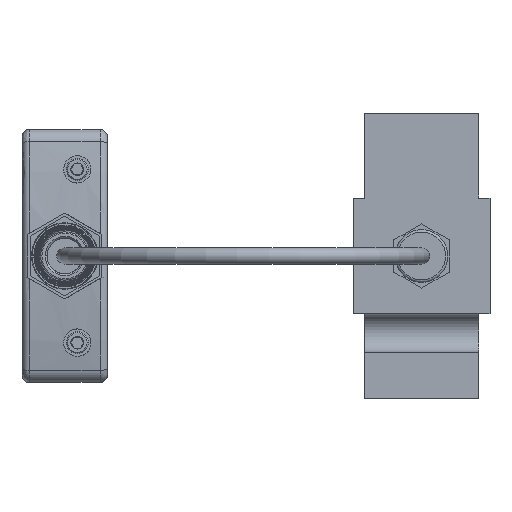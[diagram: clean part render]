
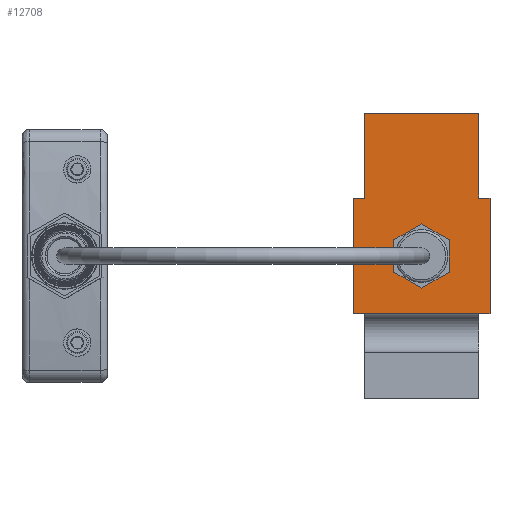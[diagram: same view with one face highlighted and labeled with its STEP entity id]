
A CAD part, left-side view. The second image highlights one B-rep face of the part: STEP entity #12708.
In plain terms, the highlighted planar face has unit normal (-1, 0, 0).
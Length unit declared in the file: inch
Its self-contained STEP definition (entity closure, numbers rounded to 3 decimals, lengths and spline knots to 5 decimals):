
#12587=CARTESIAN_POINT('',(38.483,-16.87213,6.919));
#12588=DIRECTION('',(1.0,0.0,0.0));
#12589=DIRECTION('',(0.0,0.0,-1.0));
#12590=AXIS2_PLACEMENT_3D('',#12587,#12588,#12589);
#12591=PLANE('',#12590);
#12592=CARTESIAN_POINT('',(38.483,-17.35213,8.119));
#12593=VERTEX_POINT('',#12592);
#12594=CARTESIAN_POINT('',(38.483,-17.35213,7.4065));
#12595=VERTEX_POINT('',#12594);
#12596=CARTESIAN_POINT('',(38.483,-17.35213,8.119));
#12597=DIRECTION('',(0.0,0.0,-1.0));
#12598=VECTOR('',#12597,0.7125);
#12599=LINE('',#12596,#12598);
#12600=EDGE_CURVE('',#12593,#12595,#12599,.T.);
#12601=ORIENTED_EDGE('',*,*,#12600,.F.);
#12602=CARTESIAN_POINT('',(38.483,-16.39213,8.119));
#12603=VERTEX_POINT('',#12602);
#12604=CARTESIAN_POINT('',(38.483,-16.39213,8.119));
#12605=DIRECTION('',(0.0,-1.0,0.0));
#12606=VECTOR('',#12605,0.96);
#12607=LINE('',#12604,#12606);
#12608=EDGE_CURVE('',#12603,#12593,#12607,.T.);
#12609=ORIENTED_EDGE('',*,*,#12608,.F.);
#12610=CARTESIAN_POINT('',(38.483,-16.39213,7.4065));
#12611=VERTEX_POINT('',#12610);
#12612=CARTESIAN_POINT('',(38.483,-16.39213,8.119));
#12613=DIRECTION('',(0.0,0.0,-1.0));
#12614=VECTOR('',#12613,0.7125);
#12615=LINE('',#12612,#12614);
#12616=EDGE_CURVE('',#12603,#12611,#12615,.T.);
#12617=ORIENTED_EDGE('',*,*,#12616,.T.);
#12618=CARTESIAN_POINT('',(38.483,-16.29713,7.4065));
#12619=VERTEX_POINT('',#12618);
#12620=CARTESIAN_POINT('',(38.483,-16.29713,7.4065));
#12621=DIRECTION('',(0.0,-1.0,0.0));
#12622=VECTOR('',#12621,0.095);
#12623=LINE('',#12620,#12622);
#12624=EDGE_CURVE('',#12619,#12611,#12623,.T.);
#12625=ORIENTED_EDGE('',*,*,#12624,.F.);
#12626=CARTESIAN_POINT('',(38.483,-16.29713,6.4315));
#12627=VERTEX_POINT('',#12626);
#12628=CARTESIAN_POINT('',(38.483,-16.29713,7.4065));
#12629=DIRECTION('',(0.0,0.0,-1.0));
#12630=VECTOR('',#12629,0.975);
#12631=LINE('',#12628,#12630);
#12632=EDGE_CURVE('',#12619,#12627,#12631,.T.);
#12633=ORIENTED_EDGE('',*,*,#12632,.T.);
#12634=CARTESIAN_POINT('',(38.483,-17.44713,6.4315));
#12635=VERTEX_POINT('',#12634);
#12636=CARTESIAN_POINT('',(38.483,-17.44713,6.4315));
#12637=DIRECTION('',(0.0,1.0,0.0));
#12638=VECTOR('',#12637,1.15);
#12639=LINE('',#12636,#12638);
#12640=EDGE_CURVE('',#12635,#12627,#12639,.T.);
#12641=ORIENTED_EDGE('',*,*,#12640,.F.);
#12642=CARTESIAN_POINT('',(38.483,-17.44713,7.4065));
#12643=VERTEX_POINT('',#12642);
#12644=CARTESIAN_POINT('',(38.483,-17.44713,7.4065));
#12645=DIRECTION('',(0.0,0.0,-1.0));
#12646=VECTOR('',#12645,0.975);
#12647=LINE('',#12644,#12646);
#12648=EDGE_CURVE('',#12643,#12635,#12647,.T.);
#12649=ORIENTED_EDGE('',*,*,#12648,.F.);
#12650=CARTESIAN_POINT('',(38.483,-17.35213,7.4065));
#12651=DIRECTION('',(0.0,-1.0,0.0));
#12652=VECTOR('',#12651,0.095);
#12653=LINE('',#12650,#12652);
#12654=EDGE_CURVE('',#12595,#12643,#12653,.T.);
#12655=ORIENTED_EDGE('',*,*,#12654,.F.);
#12656=EDGE_LOOP('',(#12601,#12609,#12617,#12625,#12633,#12641,#12649,#12655));
#12657=FACE_OUTER_BOUND('',#12656,.T.);
#12658=CARTESIAN_POINT('',(38.483,-17.10588,6.78404));
#12659=VERTEX_POINT('',#12658);
#12660=CARTESIAN_POINT('',(38.483,-16.87213,6.64909));
#12661=VERTEX_POINT('',#12660);
#12662=CARTESIAN_POINT('',(38.483,-17.10588,6.78404));
#12663=DIRECTION('',(0.0,0.866,-0.5));
#12664=VECTOR('',#12663,0.26991);
#12665=LINE('',#12662,#12664);
#12666=EDGE_CURVE('',#12659,#12661,#12665,.T.);
#12667=ORIENTED_EDGE('',*,*,#12666,.T.);
#12668=CARTESIAN_POINT('',(38.483,-16.63838,6.78404));
#12669=VERTEX_POINT('',#12668);
#12670=CARTESIAN_POINT('',(38.483,-16.87213,6.64909));
#12671=DIRECTION('',(0.0,0.866,0.5));
#12672=VECTOR('',#12671,0.26991);
#12673=LINE('',#12670,#12672);
#12674=EDGE_CURVE('',#12661,#12669,#12673,.T.);
#12675=ORIENTED_EDGE('',*,*,#12674,.T.);
#12676=CARTESIAN_POINT('',(38.483,-16.63838,7.05396));
#12677=VERTEX_POINT('',#12676);
#12678=CARTESIAN_POINT('',(38.483,-16.63838,6.78404));
#12679=DIRECTION('',(0.0,0.0,1.0));
#12680=VECTOR('',#12679,0.26991);
#12681=LINE('',#12678,#12680);
#12682=EDGE_CURVE('',#12669,#12677,#12681,.T.);
#12683=ORIENTED_EDGE('',*,*,#12682,.T.);
#12684=CARTESIAN_POINT('',(38.483,-16.87213,7.18891));
#12685=VERTEX_POINT('',#12684);
#12686=CARTESIAN_POINT('',(38.483,-16.63838,7.05396));
#12687=DIRECTION('',(0.0,-0.866,0.5));
#12688=VECTOR('',#12687,0.26991);
#12689=LINE('',#12686,#12688);
#12690=EDGE_CURVE('',#12677,#12685,#12689,.T.);
#12691=ORIENTED_EDGE('',*,*,#12690,.T.);
#12692=CARTESIAN_POINT('',(38.483,-17.10588,7.05396));
#12693=VERTEX_POINT('',#12692);
#12694=CARTESIAN_POINT('',(38.483,-16.87213,7.18891));
#12695=DIRECTION('',(0.0,-0.866,-0.5));
#12696=VECTOR('',#12695,0.26991);
#12697=LINE('',#12694,#12696);
#12698=EDGE_CURVE('',#12685,#12693,#12697,.T.);
#12699=ORIENTED_EDGE('',*,*,#12698,.T.);
#12700=CARTESIAN_POINT('',(38.483,-17.10588,7.05396));
#12701=DIRECTION('',(0.0,0.0,-1.0));
#12702=VECTOR('',#12701,0.26991);
#12703=LINE('',#12700,#12702);
#12704=EDGE_CURVE('',#12693,#12659,#12703,.T.);
#12705=ORIENTED_EDGE('',*,*,#12704,.T.);
#12706=EDGE_LOOP('',(#12667,#12675,#12683,#12691,#12699,#12705));
#12707=FACE_BOUND('',#12706,.T.);
#12708=ADVANCED_FACE('',(#12657,#12707),#12591,.F.);
